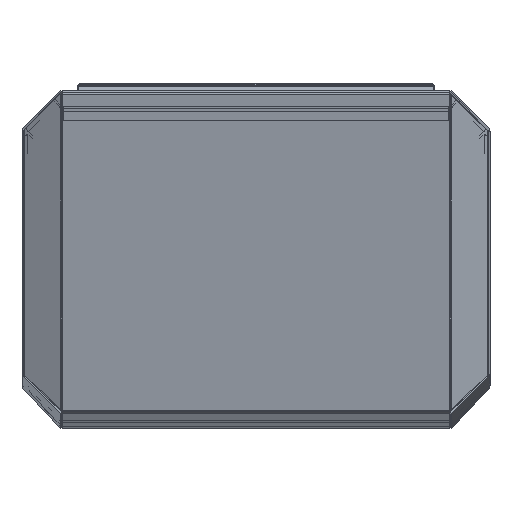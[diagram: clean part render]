
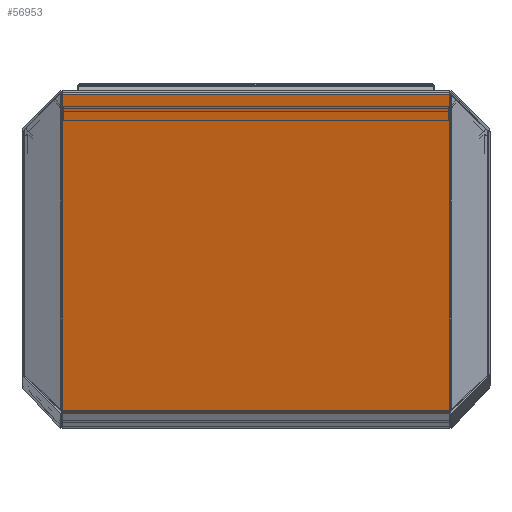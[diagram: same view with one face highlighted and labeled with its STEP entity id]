
A CAD part, top view. The second image highlights one B-rep face of the part: STEP entity #56953.
In plain terms, the highlighted planar face has unit normal (0, -0.194, 0.981) as drawn and (-0.194, 0, 0.981) by its records, which use the part's own axes.
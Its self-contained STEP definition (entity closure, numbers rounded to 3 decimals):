
#9625=ORIENTED_EDGE('',*,*,#24926,.T.);
#9626=ORIENTED_EDGE('',*,*,#24968,.F.);
#9627=ORIENTED_EDGE('',*,*,#24942,.F.);
#9628=ORIENTED_EDGE('',*,*,#24966,.F.);
#24926=EDGE_CURVE('',#32863,#32861,#38271,.T.);
#24942=EDGE_CURVE('',#32871,#32873,#38283,.T.);
#24966=EDGE_CURVE('',#32863,#32871,#38301,.T.);
#24968=EDGE_CURVE('',#32873,#32861,#38302,.T.);
#32861=VERTEX_POINT('',#90455);
#32863=VERTEX_POINT('',#90458);
#32871=VERTEX_POINT('',#90486);
#32873=VERTEX_POINT('',#90489);
#38271=LINE('',#90457,#43277);
#38283=LINE('',#90488,#43289);
#38301=LINE('',#90530,#43307);
#38302=LINE('',#90533,#43308);
#43277=VECTOR('',#73332,1000.);
#43289=VECTOR('',#73362,1000.);
#43307=VECTOR('',#73410,1000.);
#43308=VECTOR('',#73415,1000.);
#47742=EDGE_LOOP('',(#9625,#9626,#9627,#9628));
#51595=FACE_BOUND('',#47742,.T.);
#55171=PLANE('',#65140);
#56953=ADVANCED_FACE('',(#51595),#55171,.T.);
#65140=AXIS2_PLACEMENT_3D('',#90532,#73413,#73414);
#73332=DIRECTION('',(0.981,0.,0.194));
#73362=DIRECTION('',(0.981,0.,0.194));
#73410=DIRECTION('',(0.,1.,0.));
#73413=DIRECTION('',(-0.194,0.,0.981));
#73414=DIRECTION('',(0.981,0.,0.194));
#73415=DIRECTION('',(0.,-1.,0.));
#90455=CARTESIAN_POINT('',(173.524,-206.,1165.137));
#90457=CARTESIAN_POINT('',(-162.971,-206.,1098.76));
#90458=CARTESIAN_POINT('',(-161.932,-206.,1098.965));
#90486=CARTESIAN_POINT('',(-161.932,206.,1098.965));
#90488=CARTESIAN_POINT('',(-162.971,206.,1098.76));
#90489=CARTESIAN_POINT('',(173.524,206.,1165.137));
#90530=CARTESIAN_POINT('',(-161.932,206.,1098.965));
#90532=CARTESIAN_POINT('',(-162.971,206.,1098.76));
#90533=CARTESIAN_POINT('',(173.524,206.,1165.137));
